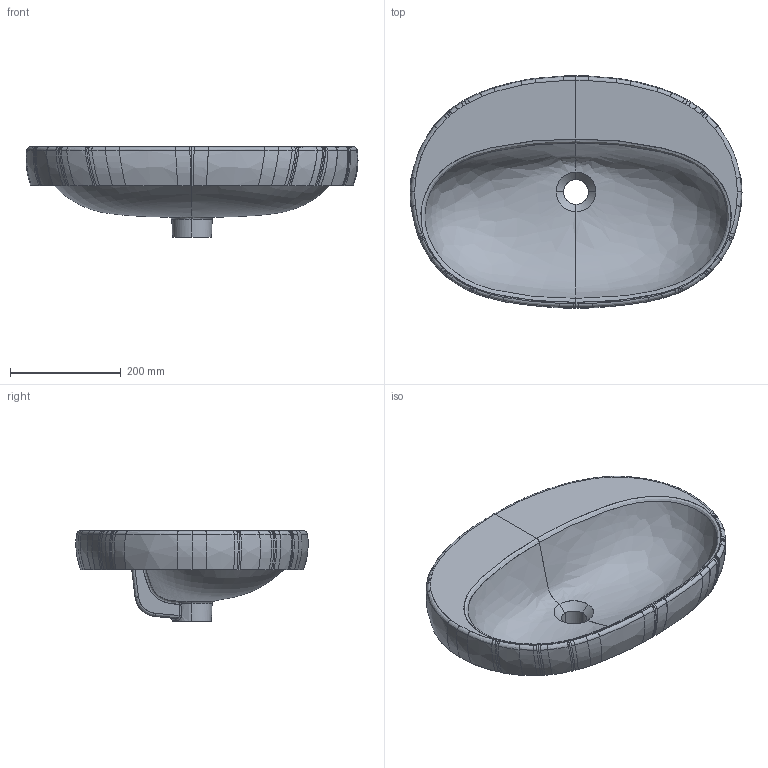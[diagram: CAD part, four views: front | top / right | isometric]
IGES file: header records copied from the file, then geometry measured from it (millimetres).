
Start section: START RECORD GO HERE.
Global section: file name: Catino 60 incasso.igs; native system: IBM CATIA IGES - CATIA Version 5 Release 17 ; preprocessor: CATIA Version 5 Release 17 ; author: Luca; organization: PC-Luca; date: 20121108.150925; units: millimetre
Bounding box: 599.98 x 420 x 163.23 mm (x, y, z)
Surface area: 671286.9 mm2 (no closed solid volume)
Topology: 0 solids, 0 shells, 262 faces, 1262 edges, 1257 vertices
Faces by surface type: bspline 262
